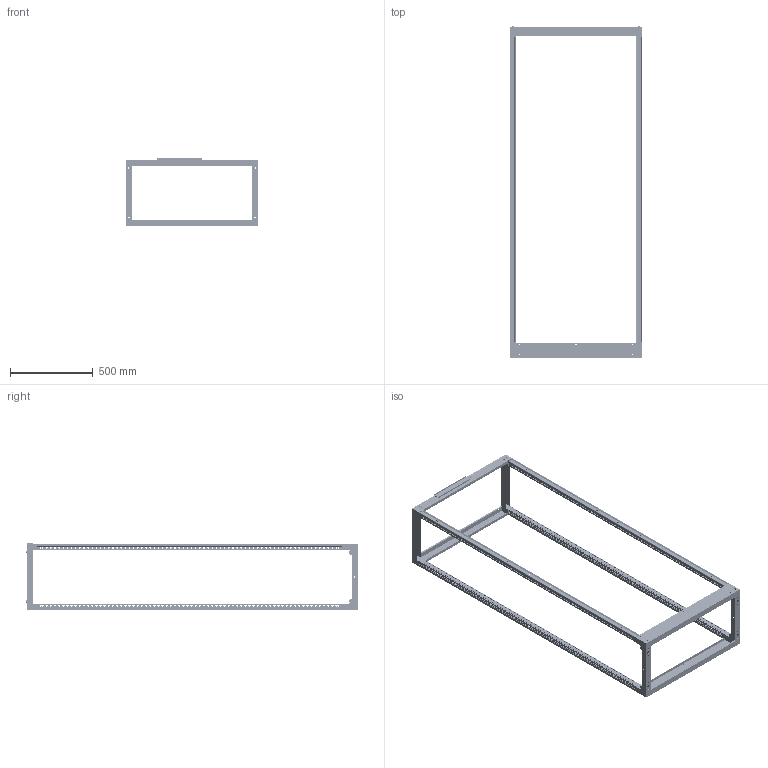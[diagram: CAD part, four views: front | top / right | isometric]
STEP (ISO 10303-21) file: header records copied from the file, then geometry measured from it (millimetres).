
FILE_DESCRIPTION((''),'2;1');
FILE_NAME('1618301522110_ASM','2021-04-13T13:42:28',('SESA176331'),('Schneider-Electric'),'CREO PARAMETRIC BY PTC INC, 2019164','CREO PARAMETRIC BY PTC INC, 2019164','');
FILE_SCHEMA(('AP242_MANAGED_MODEL_BASED_3D_ENGINEERING_MIM_LF { 1 0 10303 442 1 1 4 }'));
Products named in the file (14): EMPTYNODE_1618301522156_ASM; PRISMAP-CORNER-INF; PRISMAP-SIDEBAR-D400-INF; PRISMAP-UPRIGHT-H2000; PRISMAP-CORNER-SUP; PRISMAP-SIDEBAR-D400-SUP; PRISMAP-SIDEFRAME-D400_ASM; PRISMAP-CROSSBAR-W800-SUP; PRISMAP-CROSSBAR-W800-SUP_ASM; PRISMAP-CROSSBAR-W800-INF; PRISMAP-CROSSBAR-W800-INF_ASM; SETP-PRISMAP-CROSSBAR-W800-SUP; SETP-PRISMAP-CROSSBAR-W800-SUP_ASM; 1618301522110_ASM
Assembly tree (18 placements, depth 3):
  1618301522110_ASM
    EMPTYNODE_1618301522156_ASM
    PRISMAP-SIDEFRAME-D400_ASM  x2
      PRISMAP-CORNER-INF
      PRISMAP-SIDEBAR-D400-INF
      PRISMAP-UPRIGHT-H2000
      PRISMAP-CORNER-SUP
      PRISMAP-SIDEBAR-D400-SUP
    PRISMAP-CROSSBAR-W800-SUP_ASM
      PRISMAP-CROSSBAR-W800-SUP
    PRISMAP-CROSSBAR-W800-INF_ASM  x2
      PRISMAP-CROSSBAR-W800-INF
    SETP-PRISMAP-CROSSBAR-W800-SUP_ASM
      SETP-PRISMAP-CROSSBAR-W800-SUP
Bounding box: 800 x 2005 x 409.99 mm (x, y, z)
Volume: 3075587.3 mm3; surface area: 3392791.3 mm2
Topology: 20 solids, 20 shells, 8410 faces, 24936 edges, 16728 vertices
Faces by surface type: plane 6912, cylinder 1498
Entity records: 102581 total; most frequent: CARTESIAN_POINT 13859, ORIENTED_EDGE 13672, DIRECTION 12490, PRESENTATION_STYLE_ASSIGNMENT 6960, STYLED_ITEM 6876, CURVE_STYLE 6868, EDGE_CURVE 6836, VECTOR 5986
